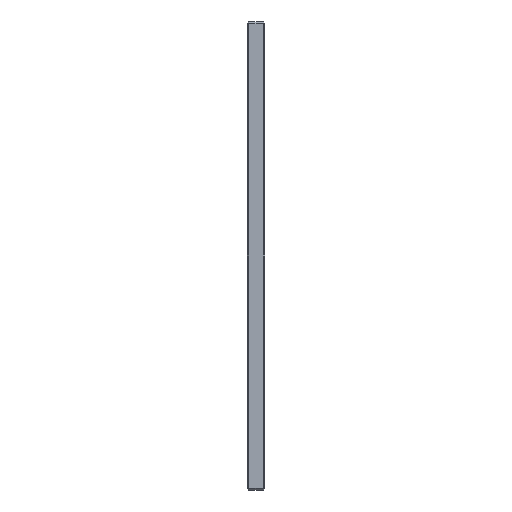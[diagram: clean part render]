
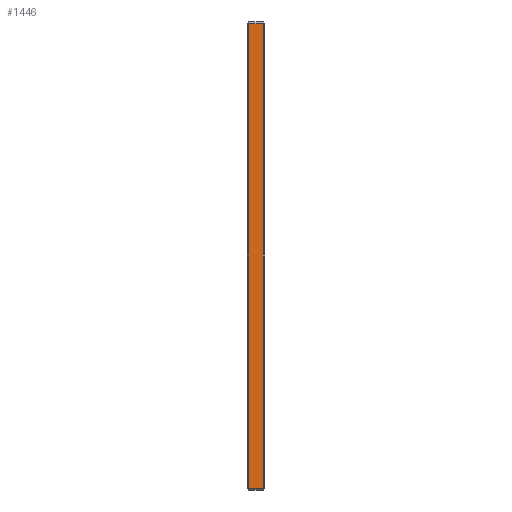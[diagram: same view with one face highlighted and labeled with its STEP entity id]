
A CAD part, left-side view. The second image highlights one B-rep face of the part: STEP entity #1446.
In plain terms, the highlighted planar face has unit normal (-1, 0, 0).
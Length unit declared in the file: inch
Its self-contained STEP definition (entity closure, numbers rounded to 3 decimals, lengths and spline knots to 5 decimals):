
#2 = VECTOR ( 'NONE', #1240, 39.37008 ) ;
#16 = ORIENTED_EDGE ( 'NONE', *, *, #1389, .T. ) ;
#105 = LINE ( 'NONE', #1320, #919 ) ;
#124 = CARTESIAN_POINT ( 'NONE',  ( -8.9375, 0.45, -6.625 ) ) ;
#228 = CARTESIAN_POINT ( 'NONE',  ( -8.9375, 0.05, -6.625 ) ) ;
#248 = CARTESIAN_POINT ( 'NONE',  ( -8.9375, 0.05, 6.575 ) ) ;
#324 = LINE ( 'NONE', #1250, #2 ) ;
#365 = LINE ( 'NONE', #124, #537 ) ;
#381 = VERTEX_POINT ( 'NONE', #1135 ) ;
#412 = ORIENTED_EDGE ( 'NONE', *, *, #1666, .T. ) ;
#416 = EDGE_CURVE ( 'NONE', #381, #1326, #365, .T. ) ;
#494 = CARTESIAN_POINT ( 'NONE',  ( -8.9375, 0.45, -6.575 ) ) ;
#506 = LINE ( 'NONE', #228, #1171 ) ;
#522 = CARTESIAN_POINT ( 'NONE',  ( -8.9375, 0.05, -6.575 ) ) ;
#537 = VECTOR ( 'NONE', #717, 39.37008 ) ;
#695 = EDGE_CURVE ( 'NONE', #1034, #381, #105, .T. ) ;
#717 = DIRECTION ( 'NONE',  ( 0., 0., -1. ) ) ;
#776 = ORIENTED_EDGE ( 'NONE', *, *, #695, .T. ) ;
#856 = DIRECTION ( 'NONE',  ( 0., 0., -1. ) ) ;
#919 = VECTOR ( 'NONE', #1736, 39.37008 ) ;
#952 = PLANE ( 'NONE',  #1627 ) ;
#1034 = VERTEX_POINT ( 'NONE', #248 ) ;
#1052 = EDGE_LOOP ( 'NONE', ( #1073, #16, #412, #776 ) ) ;
#1073 = ORIENTED_EDGE ( 'NONE', *, *, #416, .T. ) ;
#1100 = CARTESIAN_POINT ( 'NONE',  ( -8.9375, 0.5, -6.625 ) ) ;
#1135 = CARTESIAN_POINT ( 'NONE',  ( -8.9375, 0.45, 6.575 ) ) ;
#1171 = VECTOR ( 'NONE', #1262, 39.37008 ) ;
#1188 = FACE_OUTER_BOUND ( 'NONE', #1052, .T. ) ;
#1240 = DIRECTION ( 'NONE',  ( 0., -1., 0. ) ) ;
#1250 = CARTESIAN_POINT ( 'NONE',  ( -8.9375, 0.5, -6.575 ) ) ;
#1262 = DIRECTION ( 'NONE',  ( 0., 0., 1. ) ) ;
#1320 = CARTESIAN_POINT ( 'NONE',  ( -8.9375, 0.5, 6.575 ) ) ;
#1326 = VERTEX_POINT ( 'NONE', #494 ) ;
#1379 = VERTEX_POINT ( 'NONE', #522 ) ;
#1389 = EDGE_CURVE ( 'NONE', #1326, #1379, #324, .T. ) ;
#1446 = ADVANCED_FACE ( 'Placement Plane', ( #1188 ), #952, .F. ) ;
#1575 = DIRECTION ( 'NONE',  ( 1., 0., 0. ) ) ;
#1627 = AXIS2_PLACEMENT_3D ( 'NONE', #1100, #1575, #856 ) ;
#1666 = EDGE_CURVE ( 'NONE', #1379, #1034, #506, .T. ) ;
#1736 = DIRECTION ( 'NONE',  ( 0., 1., 0. ) ) ;
